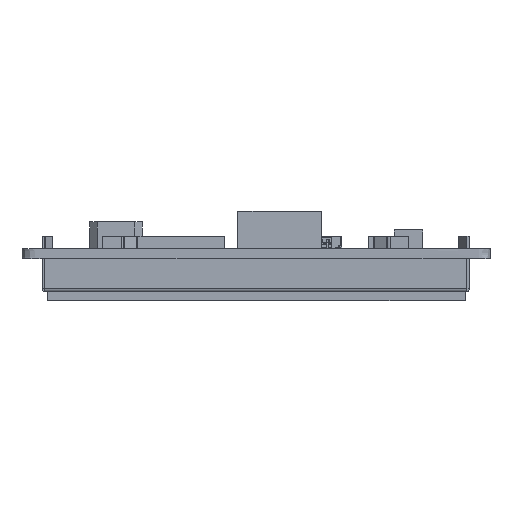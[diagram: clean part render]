
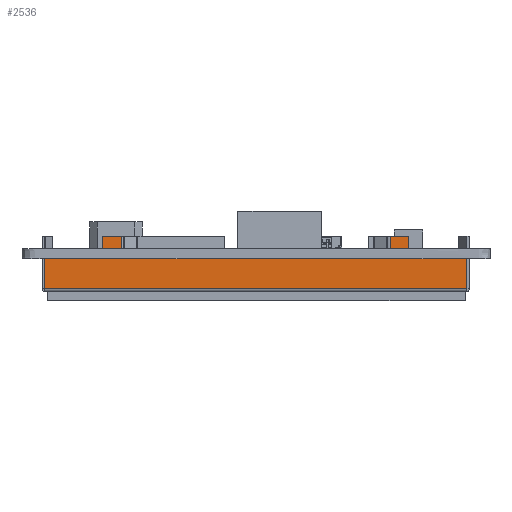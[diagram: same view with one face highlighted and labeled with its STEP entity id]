
A CAD part, left-side view. The second image highlights one B-rep face of the part: STEP entity #2536.
In plain terms, the highlighted planar face has unit normal (-1, 0, 0).
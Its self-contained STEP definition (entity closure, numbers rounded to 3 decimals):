
#2536=ADVANCED_FACE('',(#4655),#3499,.F.);
#3499=PLANE('',#25653);
#4655=FACE_OUTER_BOUND('',#5860,.T.);
#5860=EDGE_LOOP('',(#11556,#11557,#11558,#11559,#11560,#11561,#11562,#11563,
#11564,#11565,#11566,#11567,#11568,#11569,#11570,#11571));
#11556=ORIENTED_EDGE('',*,*,#17911,.T.);
#11557=ORIENTED_EDGE('',*,*,#17912,.F.);
#11558=ORIENTED_EDGE('',*,*,#17913,.F.);
#11559=ORIENTED_EDGE('',*,*,#17914,.T.);
#11560=ORIENTED_EDGE('',*,*,#17915,.T.);
#11561=ORIENTED_EDGE('',*,*,#17916,.T.);
#11562=ORIENTED_EDGE('',*,*,#17909,.T.);
#11563=ORIENTED_EDGE('',*,*,#17917,.F.);
#11564=ORIENTED_EDGE('',*,*,#17918,.T.);
#11565=ORIENTED_EDGE('',*,*,#17919,.F.);
#11566=ORIENTED_EDGE('',*,*,#17920,.F.);
#11567=ORIENTED_EDGE('',*,*,#17921,.T.);
#11568=ORIENTED_EDGE('',*,*,#17903,.T.);
#11569=ORIENTED_EDGE('',*,*,#17922,.F.);
#11570=ORIENTED_EDGE('',*,*,#17923,.F.);
#11571=ORIENTED_EDGE('',*,*,#17924,.T.);
#14739=VERTEX_POINT('',#37697);
#14740=VERTEX_POINT('',#37698);
#14745=VERTEX_POINT('',#37709);
#14746=VERTEX_POINT('',#37711);
#14747=VERTEX_POINT('',#37715);
#14748=VERTEX_POINT('',#37716);
#14749=VERTEX_POINT('',#37718);
#14750=VERTEX_POINT('',#37720);
#14751=VERTEX_POINT('',#37722);
#14752=VERTEX_POINT('',#37724);
#14753=VERTEX_POINT('',#37727);
#14754=VERTEX_POINT('',#37729);
#14755=VERTEX_POINT('',#37731);
#14756=VERTEX_POINT('',#37733);
#14757=VERTEX_POINT('',#37736);
#14758=VERTEX_POINT('',#37738);
#17903=EDGE_CURVE('',#14739,#14740,#20822,.T.);
#17909=EDGE_CURVE('',#14746,#14745,#20828,.T.);
#17911=EDGE_CURVE('',#14747,#14748,#20830,.T.);
#17912=EDGE_CURVE('',#14749,#14748,#20831,.T.);
#17913=EDGE_CURVE('',#14750,#14749,#20832,.T.);
#17914=EDGE_CURVE('',#14750,#14751,#20833,.T.);
#17915=EDGE_CURVE('',#14751,#14752,#20834,.T.);
#17916=EDGE_CURVE('',#14752,#14746,#20835,.T.);
#17917=EDGE_CURVE('',#14753,#14745,#20836,.T.);
#17918=EDGE_CURVE('',#14753,#14754,#20837,.T.);
#17919=EDGE_CURVE('',#14755,#14754,#20838,.T.);
#17920=EDGE_CURVE('',#14756,#14755,#20839,.T.);
#17921=EDGE_CURVE('',#14756,#14739,#20840,.T.);
#17922=EDGE_CURVE('',#14757,#14740,#20841,.T.);
#17923=EDGE_CURVE('',#14758,#14757,#20842,.T.);
#17924=EDGE_CURVE('',#14758,#14747,#20843,.T.);
#20822=LINE('',#37696,#23626);
#20828=LINE('',#37710,#23632);
#20830=LINE('',#37714,#23634);
#20831=LINE('',#37717,#23635);
#20832=LINE('',#37719,#23636);
#20833=LINE('',#37721,#23637);
#20834=LINE('',#37723,#23638);
#20835=LINE('',#37725,#23639);
#20836=LINE('',#37726,#23640);
#20837=LINE('',#37728,#23641);
#20838=LINE('',#37730,#23642);
#20839=LINE('',#37732,#23643);
#20840=LINE('',#37734,#23644);
#20841=LINE('',#37735,#23645);
#20842=LINE('',#37737,#23646);
#20843=LINE('',#37739,#23647);
#23626=VECTOR('',#31015,1.);
#23632=VECTOR('',#31023,1.);
#23634=VECTOR('',#31027,1.);
#23635=VECTOR('',#31028,1.);
#23636=VECTOR('',#31029,1.);
#23637=VECTOR('',#31030,1.);
#23638=VECTOR('',#31031,1.);
#23639=VECTOR('',#31032,1.);
#23640=VECTOR('',#31033,1.);
#23641=VECTOR('',#31034,1.);
#23642=VECTOR('',#31035,1.);
#23643=VECTOR('',#31036,1.);
#23644=VECTOR('',#31037,1.);
#23645=VECTOR('',#31038,1.);
#23646=VECTOR('',#31039,1.);
#23647=VECTOR('',#31040,1.);
#25653=AXIS2_PLACEMENT_3D('',#37740,#31041,#31042);
#31015=DIRECTION('',(0.,1.,0.));
#31023=DIRECTION('',(0.,1.,0.));
#31027=DIRECTION('',(0.,1.,0.));
#31028=DIRECTION('',(0.,0.,-1.));
#31029=DIRECTION('',(0.,-1.,0.));
#31030=DIRECTION('',(0.,0.,-1.));
#31031=DIRECTION('',(0.,1.,0.));
#31032=DIRECTION('',(0.,0.,-1.));
#31033=DIRECTION('',(0.,0.,-1.));
#31034=DIRECTION('',(0.,-1.,0.));
#31035=DIRECTION('',(0.,0.,-1.));
#31036=DIRECTION('',(0.,-1.,0.));
#31037=DIRECTION('',(0.,0.,-1.));
#31038=DIRECTION('',(0.,0.,1.));
#31039=DIRECTION('',(0.,1.,0.));
#31040=DIRECTION('',(0.,0.,1.));
#31041=DIRECTION('',(1.,0.,0.));
#31042=DIRECTION('',(0.,-1.,0.));
#37696=CARTESIAN_POINT('',(67.65,-14.395,-1.6));
#37697=CARTESIAN_POINT('',(67.65,43.765,-1.6));
#37698=CARTESIAN_POINT('',(67.65,53.005,-1.6));
#37709=CARTESIAN_POINT('',(67.65,40.765,-1.6));
#37710=CARTESIAN_POINT('',(67.65,-14.395,-1.6));
#37711=CARTESIAN_POINT('',(67.65,-2.155,-1.6));
#37714=CARTESIAN_POINT('',(67.65,-14.395,-1.6));
#37715=CARTESIAN_POINT('',(67.65,-14.395,-1.6));
#37716=CARTESIAN_POINT('',(67.65,-5.155,-1.6));
#37717=CARTESIAN_POINT('',(67.65,-5.155,0.));
#37718=CARTESIAN_POINT('',(67.65,-5.155,2.));
#37719=CARTESIAN_POINT('',(67.65,-2.19,2.));
#37720=CARTESIAN_POINT('',(67.65,-2.19,2.));
#37721=CARTESIAN_POINT('',(67.65,-2.19,2.));
#37722=CARTESIAN_POINT('',(67.65,-2.19,0.));
#37723=CARTESIAN_POINT('',(67.65,-5.155,0.));
#37724=CARTESIAN_POINT('',(67.65,-2.155,0.));
#37725=CARTESIAN_POINT('',(67.65,-2.155,0.));
#37726=CARTESIAN_POINT('',(67.65,40.765,0.));
#37727=CARTESIAN_POINT('',(67.65,40.765,0.));
#37728=CARTESIAN_POINT('',(67.65,43.765,0.));
#37729=CARTESIAN_POINT('',(67.65,40.754,0.));
#37730=CARTESIAN_POINT('',(67.65,40.754,2.));
#37731=CARTESIAN_POINT('',(67.65,40.754,2.));
#37732=CARTESIAN_POINT('',(67.65,43.765,2.));
#37733=CARTESIAN_POINT('',(67.65,43.765,2.));
#37734=CARTESIAN_POINT('',(67.65,43.765,0.));
#37735=CARTESIAN_POINT('',(67.65,53.005,-6.4));
#37736=CARTESIAN_POINT('',(67.65,53.005,-6.4));
#37737=CARTESIAN_POINT('',(67.65,-14.395,-6.4));
#37738=CARTESIAN_POINT('',(67.65,-14.395,-6.4));
#37739=CARTESIAN_POINT('',(67.65,-14.395,-6.4));
#37740=CARTESIAN_POINT('',(67.65,-14.395,-6.4));
